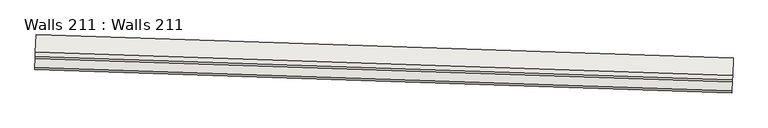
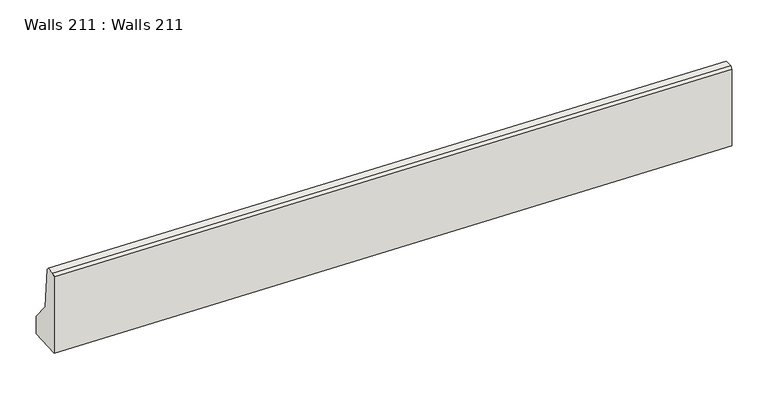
"""IFC4 building model written with IfcOpenShell, lengths in millimetres: wall geometry, Walls 211 : Walls 211."""

from ifc_helpers import new_model, si_unit, frame, origin, place, context, project, spatial, polyline, outline, extrude, source, transform, mapped, element, save


def walls_211_walls_211_a335b646(model_context):
    return source(origin(), model_context, "Body", "SweptSolid", [
        extrude(outline(polyline([(638180.0, 400.0), (638430.0, 199.9999999), (638935.0, 150.0), (638960.0, 124.9999999), (638960.0, 24.9999999), (638935.0, 0.0), (637960.0, 0.0), (637960.0, 400.0), (638180.0, 400.0)])), frame((-798229.0738373, -408715.2867479, 0.0), z_axis=(-0.9994343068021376, 0.03363133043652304, 0.0), x_axis=(0.0, 0.0, 1.0)), (0.0, 0.0, 1.0), 8000.0),
    ])


if __name__ == "__main__":
    model = new_model("IFC4")
    model_context = context("Model", 3, world=origin())
    ifc_project = project(units=[si_unit("LENGTHUNIT", "METRE", prefix="MILLI")], contexts=[model_context])
    site = spatial("IfcSite", under=ifc_project)
    building = spatial("IfcBuilding", under=site)
    placement = place(None, origin())
    walls_211_walls_211_shape = walls_211_walls_211_a335b646(model_context)
    element("IfcWall", 1, ObjectType="Walls 211 : Walls 211", at=placement, inside=building, context=model_context, shape_type="MappedRepresentation", body=[
        mapped(walls_211_walls_211_shape, transform((0.0, 0.0, 0.0), x_axis=(1.0, 0.0, 0.0), y_axis=(0.0, 1.0, 0.0), z_axis=(0.0, 0.0, 1.0))),
    ])
    save(model, "model.ifc")
